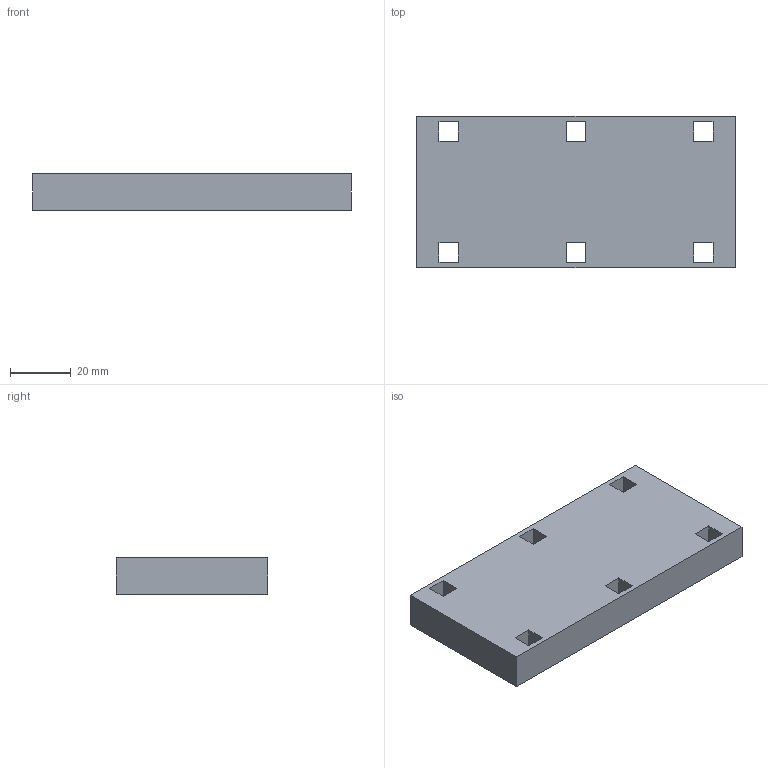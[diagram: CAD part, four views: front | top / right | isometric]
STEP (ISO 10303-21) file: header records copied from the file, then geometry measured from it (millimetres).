
FILE_DESCRIPTION(('Mechanical CAD reference from nasji.com'),'2;1');
FILE_NAME('NASJI.step','',(''),(''),'','NASJI distribution','');
FILE_SCHEMA(('AUTOMOTIVE_DESIGN { 1 0 10303 214 1 1 1 1 }'));
Length unit declared in the file: millimetre
Products named in the file (1): Open CASCADE STEP translator 7.8 98
Bounding box: 105 x 49.9 x 12 mm (x, y, z)
Volume: 59924.9 mm3; surface area: 15548.3 mm2
Topology: 1 solids, 1 shells, 30 faces, 84 edges, 56 vertices
Faces by surface type: plane 30
Entity records: 1978 total; most frequent: CARTESIAN_POINT 435, DIRECTION 218, ORIENTED_EDGE 168, PCURVE 168, DEFINITIONAL_REPRESENTATION 168, LINE 156, VECTOR 156, B_SPLINE_CURVE_WITH_KNOTS 96
